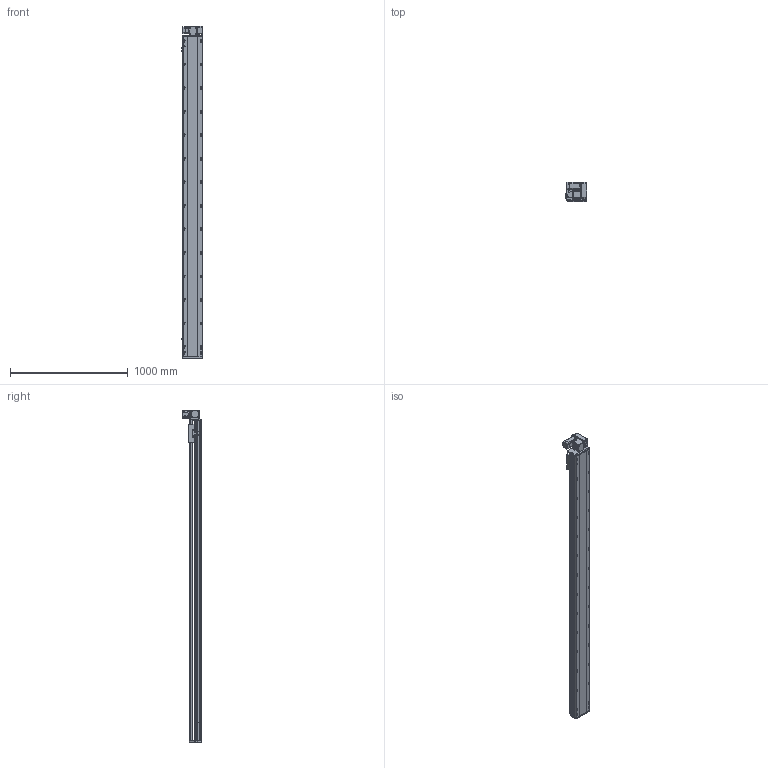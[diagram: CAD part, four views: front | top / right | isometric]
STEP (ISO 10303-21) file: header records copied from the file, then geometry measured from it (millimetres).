
FILE_DESCRIPTION (( 'STEP AP214' ), '1' );
FILE_NAME ('RTB17S-XX-2450-RW-M40-C4.STEP', '2025-12-11T09:12:46', ( '' ), ( '' ), 'SwSTEP 2.0', 'SolidWorks 2018', '' );
FILE_SCHEMA (( 'AUTOMOTIVE_DESIGN' ));
Length unit declared in the file: millimetre
Products named in the file (14): RTB14-L-008-M20--萇儂啣^RTB17S-RW-々湍釱蚾饜-400W_RTB17S-XX-XX-RW-M40-C4; RTB17S-L-001耜醱啣^RTB17S-XX-XX-RW-M40-C4; RTB14-L-005P--轴承塑胶压盖^RTB17S-RW-皮带座装配-400W_RTB17S-XX-XX-RW-M40-C4; RMP17S-L-014-T20--々湍釱^RTB17S-RW-々湍釱蚾饜-400W_RTB17S-XX-XX-RW-M40-C4; RTB14-L-018P^RTB17S-RW-々湍釱蚾饜-400W_RTB17S-XX-XX-RW-M40-C4; RTH13-BL-012覜茼え俋离^RTB17S-XX-XX-RW-M40-C4; RTB17S-L-007奻裔^RTB17S-XX-XX-RW-M40-C4; OMRON EE-SX672 传感器^RTB17S-XX-XX-RW-M40-C4; 400W侜督萇儂^RTB17S-XX-XX-RW-M40-C4; RTB17S-RW-々湍釱蚾饜-400W^RTB17S-XX-XX-RW-M40-C4; RTB17-R-011菁釱^RTB17S-XX-XX-RW-M40-C4; RTB14-L-017P^RTB17S-RW-々湍釱蚾饜-400W_RTB17S-XX-XX-RW-M40-C4; RTB17S-L-004佪裝蹟譫蟀諉釱^RTB17S-XX-XX-RW-M40-C4; RTB17S-XX-2450-RW-M40-C4
Assembly tree (16 placements, depth 3):
  RTB17S-XX-2450-RW-M40-C4
    RTB17-R-011菁釱^RTB17S-XX-XX-RW-M40-C4
    RTB17S-L-007奻裔^RTB17S-XX-XX-RW-M40-C4
    OMRON EE-SX672 传感器^RTB17S-XX-XX-RW-M40-C4  x3
    RTB17S-L-001耜醱啣^RTB17S-XX-XX-RW-M40-C4
    400W侜督萇儂^RTB17S-XX-XX-RW-M40-C4
    RTB17S-L-004佪裝蹟譫蟀諉釱^RTB17S-XX-XX-RW-M40-C4
    RTH13-BL-012覜茼え俋离^RTB17S-XX-XX-RW-M40-C4
    RTB17S-RW-々湍釱蚾饜-400W^RTB17S-XX-XX-RW-M40-C4
      RMP17S-L-014-T20--々湍釱^RTB17S-RW-々湍釱蚾饜-400W_RTB17S-XX-XX-RW-M40-C4
      RTB14-L-005P--轴承塑胶压盖^RTB17S-RW-皮带座装配-400W_RTB17S-XX-XX-RW-M40-C4
      RTB14-L-008-M20--萇儂啣^RTB17S-RW-々湍釱蚾饜-400W_RTB17S-XX-XX-RW-M40-C4
      RTB14-L-017P^RTB17S-RW-々湍釱蚾饜-400W_RTB17S-XX-XX-RW-M40-C4  x2
      RTB14-L-018P^RTB17S-RW-々湍釱蚾饜-400W_RTB17S-XX-XX-RW-M40-C4
Bounding box: 183.5 x 160.5 x 2822.5 mm (x, y, z)
Volume: 24193735.4 mm3; surface area: 2789336 mm2
Topology: 15 solids, 15 shells, 2333 faces, 6519 edges, 4257 vertices
Faces by surface type: plane 1084, cylinder 801, bspline 301, cone 139, torus 8
Entity records: 68777 total; most frequent: CARTESIAN_POINT 19524, ORIENTED_EDGE 9882, DIRECTION 9116, EDGE_CURVE 4941, VERTEX_POINT 3245, AXIS2_PLACEMENT_3D 3175, LINE 2766, VECTOR 2766
